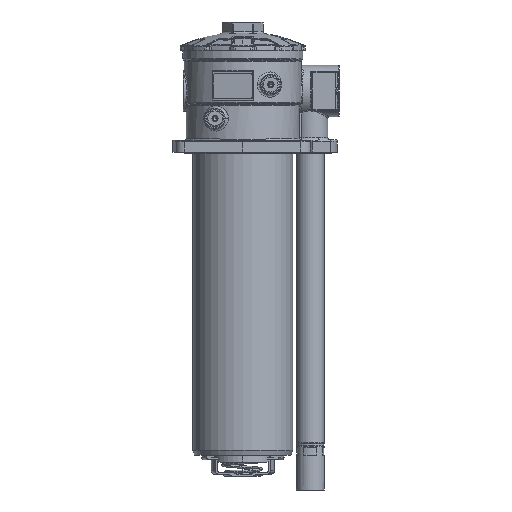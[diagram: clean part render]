
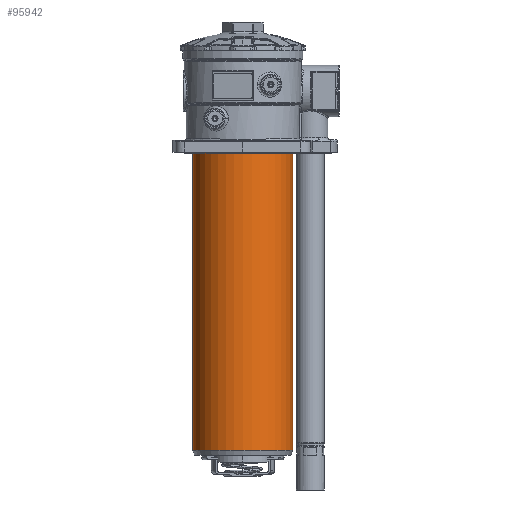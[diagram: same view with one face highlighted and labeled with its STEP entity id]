
A CAD part, left-side view. The second image highlights one B-rep face of the part: STEP entity #95942.
In plain terms, the highlighted cylindrical face has radius 50.25 mm (diameter 100.5 mm), a partial arc.
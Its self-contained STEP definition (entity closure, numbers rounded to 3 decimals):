
#12266=CARTESIAN_POINT('',(0.,0.,0.));
#12267=DIRECTION('',(0.,0.,-1.));
#12268=DIRECTION('',(0.,-1.,0.));
#12269=AXIS2_PLACEMENT_3D('',#12266,#12267,#12268);
#41695=DIRECTION('',(0.,0.,-1.));
#41696=VECTOR('',#41695,300.1);
#41697=CARTESIAN_POINT('',(0.,50.25,0.));
#41698=LINE('',#41697,#41696);
#41702=DIRECTION('',(0.,0.,-1.));
#41703=VECTOR('',#41702,300.1);
#41704=CARTESIAN_POINT('',(0.,-50.25,0.));
#41705=LINE('',#41704,#41703);
#41731=CARTESIAN_POINT('',(0.,0.,-300.1));
#41732=DIRECTION('',(0.,0.,1.));
#41733=DIRECTION('',(0.,1.,0.));
#41734=AXIS2_PLACEMENT_3D('',#41731,#41732,#41733);
#55843=CARTESIAN_POINT('',(0.,-50.25,-300.1));
#55845=VERTEX_POINT('',#55843);
#55847=CARTESIAN_POINT('',(0.,50.25,-300.1));
#55849=VERTEX_POINT('',#55847);
#55851=CARTESIAN_POINT('',(0.,-50.25,0.));
#55852=CARTESIAN_POINT('',(0.,50.25,0.));
#55853=VERTEX_POINT('',#55851);
#55854=VERTEX_POINT('',#55852);
#95928=CARTESIAN_POINT('',(0.,0.,
-148.037));
#95929=DIRECTION('',(0.,0.,-1.));
#95930=DIRECTION('',(0.,-1.,0.));
#95931=AXIS2_PLACEMENT_3D('',#95928,#95929,#95930);
#95932=CYLINDRICAL_SURFACE('',#95931,50.25);
#95933=ORIENTED_EDGE('',*,*,#65069,.F.);
#95935=ORIENTED_EDGE('',*,*,#95934,.T.);
#95937=ORIENTED_EDGE('',*,*,#95936,.F.);
#95939=ORIENTED_EDGE('',*,*,#95938,.F.);
#95940=EDGE_LOOP('',(#95933,#95935,#95937,#95939));
#95941=FACE_OUTER_BOUND('',#95940,.F.);
#12270=CIRCLE('',#12269,50.25);
#41735=CIRCLE('',#41734,50.25);
#65069=EDGE_CURVE('',#55853,#55854,#12270,.T.);
#95934=EDGE_CURVE('',#55853,#55845,#41705,.T.);
#95936=EDGE_CURVE('',#55849,#55845,#41735,.T.);
#95938=EDGE_CURVE('',#55854,#55849,#41698,.T.);
#95942=ADVANCED_FACE('',(#95941),#95932,.T.);
